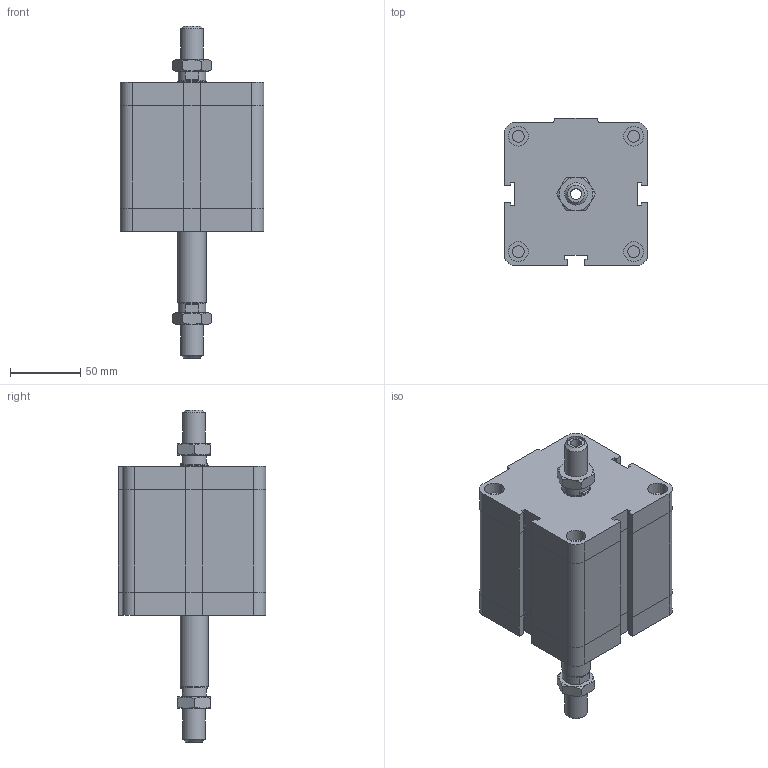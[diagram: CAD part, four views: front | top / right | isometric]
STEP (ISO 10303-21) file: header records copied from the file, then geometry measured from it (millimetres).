
FILE_DESCRIPTION((''),'2;1');
FILE_NAME('I:\Area Tecnica\Disegni\VARIE-3D\Componenti\EUROPE\15##_###_####_05_#\1581_80_0050_05_1.iam.stp','2009-04-20T15:03:04',(''),(''),'Autodesk Inventor 2009','Autodesk Inventor 2009','');
FILE_SCHEMA(('AUTOMOTIVE_DESIGN { 1 0 10303 214 1 1 1 1 }'));
Length unit declared in the file: millimetre
Products named in the file (4): 1581_80_0050_05_1; 1581_80_0050_03_1_C; 1561_80_0050_05_1_S; DBFM16
Assembly tree (4 placements, depth 2):
  1581_80_0050_05_1
    1581_80_0050_03_1_C
    1561_80_0050_05_1_S
    DBFM16  x2
Bounding box: 102 x 105 x 236 mm (x, y, z)
Volume: 1081870.6 mm3; surface area: 106078.4 mm2
Topology: 4 solids, 4 shells, 223 faces, 486 edges, 291 vertices
Faces by surface type: plane 129, cone 37, bspline 32, cylinder 25
Full cylindrical faces by diameter (mm): 8.376 x4, 14 x4, 14.5 x1, 16 x1, 19.5 x2, 20 x1
Entity records: 5484 total; most frequent: CARTESIAN_POINT 1227, DIRECTION 808, ORIENTED_EDGE 776, EDGE_CURVE 388, AXIS2_PLACEMENT_3D 275, EDGE_LOOP 262, VECTOR 258, LINE 258
